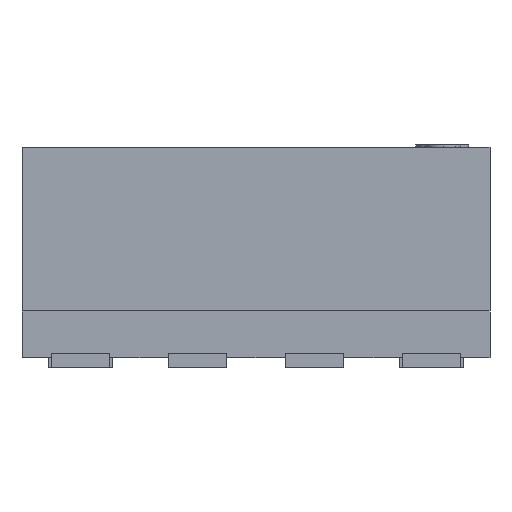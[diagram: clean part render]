
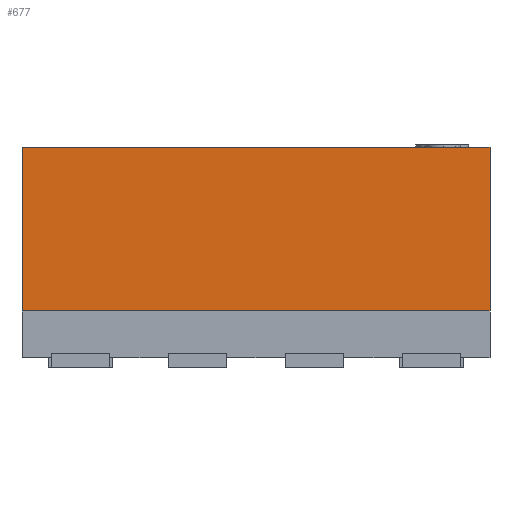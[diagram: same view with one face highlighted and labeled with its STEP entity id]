
A CAD part, left-side view. The second image highlights one B-rep face of the part: STEP entity #677.
In plain terms, the highlighted planar face has unit normal (-1, 0, 0).
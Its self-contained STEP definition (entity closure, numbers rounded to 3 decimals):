
#194 = DIRECTION ( 'NONE',  ( 0., -1., 0. ) ) ;
#592 = VECTOR ( 'NONE', #3034, 1000. ) ;
#677 = ADVANCED_FACE ( 'NONE', ( #3861 ), #11540, .F. ) ;
#1694 = VERTEX_POINT ( 'NONE', #10827 ) ;
#2586 = CARTESIAN_POINT ( 'NONE',  ( -1., 1., 0.7 ) ) ;
#3024 = VERTEX_POINT ( 'NONE', #15325 ) ;
#3034 = DIRECTION ( 'NONE',  ( 0., 0., -1. ) ) ;
#3045 = EDGE_LOOP ( 'NONE', ( #3438, #12789, #3903, #16143 ) ) ;
#3119 = CARTESIAN_POINT ( 'NONE',  ( -1., 1., 0. ) ) ;
#3438 = ORIENTED_EDGE ( 'NONE', *, *, #10989, .T. ) ;
#3861 = FACE_OUTER_BOUND ( 'NONE', #3045, .T. ) ;
#3903 = ORIENTED_EDGE ( 'NONE', *, *, #5166, .F. ) ;
#3947 = DIRECTION ( 'NONE',  ( 0., 1., 0. ) ) ;
#5166 = EDGE_CURVE ( 'NONE', #6473, #3024, #10809, .T. ) ;
#5214 = LINE ( 'NONE', #7407, #16501 ) ;
#6319 = DIRECTION ( 'NONE',  ( 0., 0., -1. ) ) ;
#6473 = VERTEX_POINT ( 'NONE', #11812 ) ;
#6743 = CARTESIAN_POINT ( 'NONE',  ( -1., 1., 0.7 ) ) ;
#7407 = CARTESIAN_POINT ( 'NONE',  ( -1., -1., 0.7 ) ) ;
#7492 = EDGE_CURVE ( 'NONE', #3024, #1694, #5214, .T. ) ;
#7616 = VECTOR ( 'NONE', #8393, 1000. ) ;
#7809 = VERTEX_POINT ( 'NONE', #11326 ) ;
#8393 = DIRECTION ( 'NONE',  ( 0., -1., 0. ) ) ;
#8406 = LINE ( 'NONE', #11050, #592 ) ;
#9133 = DIRECTION ( 'NONE',  ( 1., 0., 0. ) ) ;
#10556 = AXIS2_PLACEMENT_3D ( 'NONE', #2586, #9133, #3947 ) ;
#10809 = LINE ( 'NONE', #6743, #14796 ) ;
#10827 = CARTESIAN_POINT ( 'NONE',  ( -1., -1., 0. ) ) ;
#10989 = EDGE_CURVE ( 'NONE', #7809, #1694, #16236, .T. ) ;
#11050 = CARTESIAN_POINT ( 'NONE',  ( -1., 1., 0.7 ) ) ;
#11326 = CARTESIAN_POINT ( 'NONE',  ( -1., 1., 0. ) ) ;
#11540 = PLANE ( 'NONE',  #10556 ) ;
#11812 = CARTESIAN_POINT ( 'NONE',  ( -1., 1., 0.7 ) ) ;
#12789 = ORIENTED_EDGE ( 'NONE', *, *, #7492, .F. ) ;
#14796 = VECTOR ( 'NONE', #194, 1000. ) ;
#14837 = EDGE_CURVE ( 'NONE', #6473, #7809, #8406, .T. ) ;
#15325 = CARTESIAN_POINT ( 'NONE',  ( -1., -1., 0.7 ) ) ;
#16143 = ORIENTED_EDGE ( 'NONE', *, *, #14837, .T. ) ;
#16236 = LINE ( 'NONE', #3119, #7616 ) ;
#16501 = VECTOR ( 'NONE', #6319, 1000. ) ;
